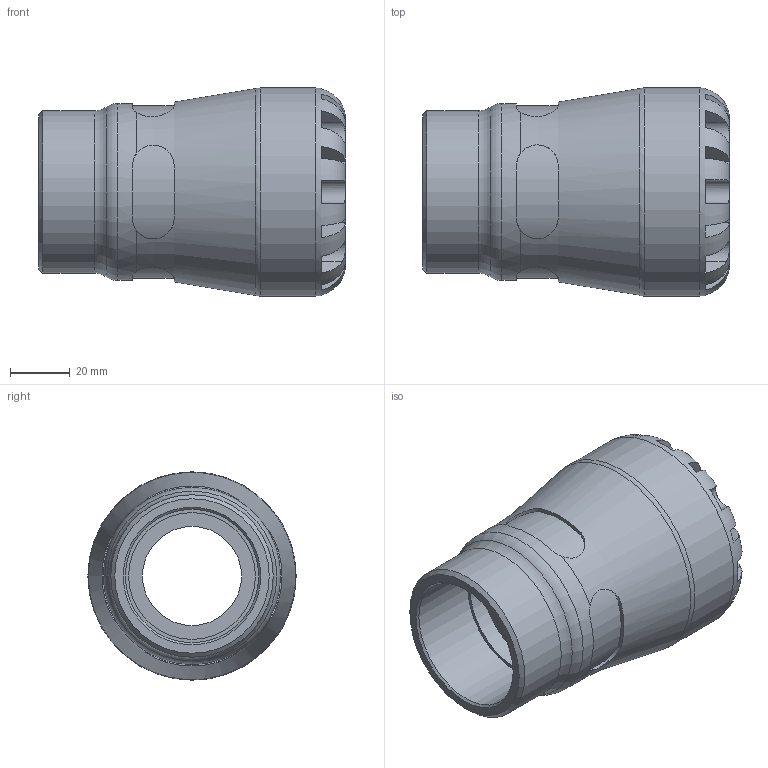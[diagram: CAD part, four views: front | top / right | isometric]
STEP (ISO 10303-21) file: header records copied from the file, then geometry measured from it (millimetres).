
FILE_DESCRIPTION(/* description */ ('PLASSON FEMALE ADAPTOR 40X1.1/2" SERIES 1'),/* implementation_level */ '2;1');
FILE_NAME(/* name */ 'C:\Dropbox\KIMPROJECTS-Inventor\99-16-3568-Processing\1003\100300040015_190300040015.ipt.step',/* time_stamp */ '2017-01-22T09:49:22+02:00',/* author */ ('KIM'),/* organization */ (''),/* preprocessor_version */ 'ST-DEVELOPER v15.6',/* originating_system */ 'Autodesk Inventor 2015',/* authorisation */ '');
FILE_SCHEMA (('AUTOMOTIVE_DESIGN { 1 0 10303 214 3 1 1 }'));
Length unit declared in the file: millimetre
Products named in the file (1): 100300040015_190300040015
Bounding box: 103 x 70 x 70 mm (x, y, z)
Volume: 173886.5 mm3; surface area: 39221.9 mm2
Topology: 1 solids, 1 shells, 104 faces, 265 edges, 166 vertices
Faces by surface type: plane 61, cylinder 35, torus 5, cone 3
Full cylindrical faces by diameter (mm): 33.333 x1, 40 x1, 42.603 x1, 44.845 x1, 54.6 x1, 59.5 x1, 70 x1
Entity records: 3960 total; most frequent: CARTESIAN_POINT 1469, ORIENTED_EDGE 492, DIRECTION 478, EDGE_CURVE 246, AXIS2_PLACEMENT_3D 199, VERTEX_POINT 162, EDGE_LOOP 124, STYLED_ITEM 105
